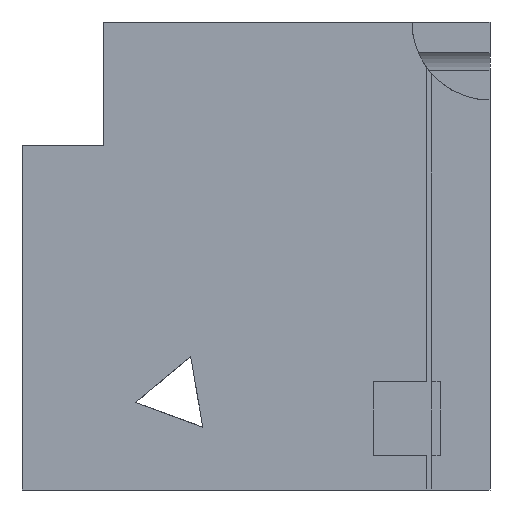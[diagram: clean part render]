
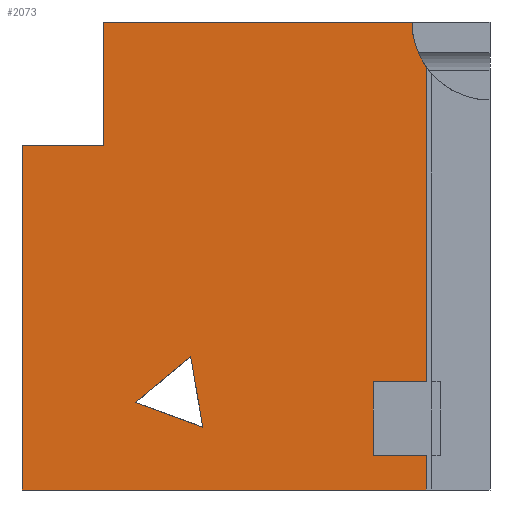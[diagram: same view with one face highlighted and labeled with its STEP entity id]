
A CAD part, left-side view. The second image highlights one B-rep face of the part: STEP entity #2073.
In plain terms, the highlighted planar face has unit normal (-1, 0, 0).
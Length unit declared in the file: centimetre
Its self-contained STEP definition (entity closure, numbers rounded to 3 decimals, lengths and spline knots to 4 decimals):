
#42 = CARTESIAN_POINT ( 'NONE',  ( 0., 825.6216, 736.0903 ) ) ;
#73 = CIRCLE ( 'NONE', #788, 166.8254 ) ;
#82 = CARTESIAN_POINT ( 'NONE',  ( 0., 757.3226, 187.0487 ) ) ;
#92 = FACE_BOUND ( 'NONE', #2176, .T. ) ;
#94 = CARTESIAN_POINT ( 'NONE',  ( 0., 1000., 736.0903 ) ) ;
#115 = DIRECTION ( 'NONE',  ( 0., 0.939, 0.345 ) ) ;
#121 = EDGE_CURVE ( 'NONE', #2398, #1127, #708, .T. ) ;
#143 = VERTEX_POINT ( 'NONE', #94 ) ;
#209 = VERTEX_POINT ( 'NONE', #905 ) ;
#210 = EDGE_CURVE ( 'NONE', #2237, #853, #322, .T. ) ;
#230 = DIRECTION ( 'NONE',  ( -1., 0., 0. ) ) ;
#232 = VECTOR ( 'NONE', #1672, 100. ) ;
#234 = LINE ( 'NONE', #42, #1025 ) ;
#256 = CARTESIAN_POINT ( 'NONE',  ( 0., 639.7029, 285.1336 ) ) ;
#269 = VECTOR ( 'NONE', #1265, 100. ) ;
#281 = ORIENTED_EDGE ( 'NONE', *, *, #1264, .F. ) ;
#322 = LINE ( 'NONE', #482, #664 ) ;
#329 = CARTESIAN_POINT ( 'NONE',  ( 0., 135.9428, 73.6424 ) ) ;
#336 = ORIENTED_EDGE ( 'NONE', *, *, #1992, .T. ) ;
#339 = CARTESIAN_POINT ( 'NONE',  ( 0., 825.6216, 1000. ) ) ;
#344 = VECTOR ( 'NONE', #1210, 100. ) ;
#363 = CARTESIAN_POINT ( 'NONE',  ( 0., 135.9428, 0. ) ) ;
#365 = VECTOR ( 'NONE', #1646, 100. ) ;
#381 = CARTESIAN_POINT ( 'NONE',  ( 0., 613.5688, 134.2296 ) ) ;
#383 = ORIENTED_EDGE ( 'NONE', *, *, #1525, .T. ) ;
#413 = DIRECTION ( 'NONE',  ( 0., -0.768, 0.64 ) ) ;
#418 = CARTESIAN_POINT ( 'NONE',  ( 0., 0., 1000. ) ) ;
#439 = DIRECTION ( 'NONE',  ( 0., -0.171, -0.985 ) ) ;
#446 = CARTESIAN_POINT ( 'NONE',  ( 0., 135.9428, 903.3032 ) ) ;
#470 = EDGE_CURVE ( 'NONE', #209, #714, #1430, .T. ) ;
#481 = PLANE ( 'NONE',  #1027 ) ;
#482 = CARTESIAN_POINT ( 'NONE',  ( 0., 1000., 0. ) ) ;
#506 = CARTESIAN_POINT ( 'NONE',  ( 0., 105.8803, 231.4711 ) ) ;
#509 = VERTEX_POINT ( 'NONE', #796 ) ;
#513 = ORIENTED_EDGE ( 'NONE', *, *, #986, .F. ) ;
#542 = CARTESIAN_POINT ( 'NONE',  ( 0., 1000., 1000. ) ) ;
#550 = ORIENTED_EDGE ( 'NONE', *, *, #1870, .F. ) ;
#558 = LINE ( 'NONE', #1306, #2008 ) ;
#572 = CARTESIAN_POINT ( 'NONE',  ( 0., 105.8803, 73.6424 ) ) ;
#664 = VECTOR ( 'NONE', #1660, 100. ) ;
#696 = ORIENTED_EDGE ( 'NONE', *, *, #2180, .F. ) ;
#706 = LINE ( 'NONE', #1453, #269 ) ;
#708 = LINE ( 'NONE', #2187, #365 ) ;
#714 = VERTEX_POINT ( 'NONE', #339 ) ;
#725 = VERTEX_POINT ( 'NONE', #883 ) ;
#732 = LINE ( 'NONE', #506, #232 ) ;
#788 = AXIS2_PLACEMENT_3D ( 'NONE', #418, #230, #1742 ) ;
#796 = CARTESIAN_POINT ( 'NONE',  ( 0., 135.9428, 231.4711 ) ) ;
#849 = CARTESIAN_POINT ( 'NONE',  ( 0., 1000., 1000. ) ) ;
#853 = VERTEX_POINT ( 'NONE', #363 ) ;
#868 = ORIENTED_EDGE ( 'NONE', *, *, #998, .F. ) ;
#883 = CARTESIAN_POINT ( 'NONE',  ( 0., 639.7029, 285.1336 ) ) ;
#905 = CARTESIAN_POINT ( 'NONE',  ( 0., 825.6216, 736.0903 ) ) ;
#951 = VECTOR ( 'NONE', #1113, 100. ) ;
#968 = LINE ( 'NONE', #256, #1294 ) ;
#986 = EDGE_CURVE ( 'NONE', #1127, #1431, #1349, .T. ) ;
#998 = EDGE_CURVE ( 'NONE', #1431, #853, #2280, .T. ) ;
#1025 = VECTOR ( 'NONE', #1357, 100. ) ;
#1027 = AXIS2_PLACEMENT_3D ( 'NONE', #849, #1605, #2366 ) ;
#1069 = ORIENTED_EDGE ( 'NONE', *, *, #470, .F. ) ;
#1113 = DIRECTION ( 'NONE',  ( 0., 0., -1. ) ) ;
#1127 = VERTEX_POINT ( 'NONE', #1578 ) ;
#1143 = VERTEX_POINT ( 'NONE', #82 ) ;
#1160 = CARTESIAN_POINT ( 'NONE',  ( 0., 166.8254, 1000. ) ) ;
#1167 = DIRECTION ( 'NONE',  ( 0., -1., 0. ) ) ;
#1192 = CARTESIAN_POINT ( 'NONE',  ( 0., 1000., 0. ) ) ;
#1210 = DIRECTION ( 'NONE',  ( 0., 0., 1. ) ) ;
#1238 = EDGE_CURVE ( 'NONE', #509, #2398, #732, .T. ) ;
#1257 = ORIENTED_EDGE ( 'NONE', *, *, #1725, .F. ) ;
#1259 = ORIENTED_EDGE ( 'NONE', *, *, #1797, .T. ) ;
#1264 = EDGE_CURVE ( 'NONE', #2230, #509, #706, .T. ) ;
#1265 = DIRECTION ( 'NONE',  ( 0., 0., -1. ) ) ;
#1291 = ORIENTED_EDGE ( 'NONE', *, *, #1238, .F. ) ;
#1292 = VECTOR ( 'NONE', #1167, 100. ) ;
#1294 = VECTOR ( 'NONE', #413, 100. ) ;
#1306 = CARTESIAN_POINT ( 'NONE',  ( 0., 1000., 1000. ) ) ;
#1317 = DIRECTION ( 'NONE',  ( 0., -1., 0. ) ) ;
#1319 = CARTESIAN_POINT ( 'NONE',  ( 0., 135.9428, 1000. ) ) ;
#1321 = VERTEX_POINT ( 'NONE', #381 ) ;
#1341 = VERTEX_POINT ( 'NONE', #1160 ) ;
#1349 = LINE ( 'NONE', #572, #1292 ) ;
#1357 = DIRECTION ( 'NONE',  ( 0., -1., 0. ) ) ;
#1374 = VECTOR ( 'NONE', #2076, 100. ) ;
#1382 = CARTESIAN_POINT ( 'NONE',  ( 0., 613.5688, 134.2296 ) ) ;
#1392 = EDGE_LOOP ( 'NONE', ( #1895, #868, #513, #2154, #1291, #281, #696, #1257, #1069, #550, #1259 ) ) ;
#1430 = LINE ( 'NONE', #1951, #344 ) ;
#1431 = VERTEX_POINT ( 'NONE', #329 ) ;
#1453 = CARTESIAN_POINT ( 'NONE',  ( 0., 135.9428, 1000. ) ) ;
#1525 = EDGE_CURVE ( 'NONE', #1143, #725, #968, .T. ) ;
#1578 = CARTESIAN_POINT ( 'NONE',  ( 0., 249.8607, 73.6424 ) ) ;
#1592 = EDGE_CURVE ( 'NONE', #725, #1321, #1770, .T. ) ;
#1605 = DIRECTION ( 'NONE',  ( 1., 0., 0. ) ) ;
#1619 = FACE_OUTER_BOUND ( 'NONE', #1392, .T. ) ;
#1646 = DIRECTION ( 'NONE',  ( 0., 0., -1. ) ) ;
#1660 = DIRECTION ( 'NONE',  ( 0., -1., 0. ) ) ;
#1672 = DIRECTION ( 'NONE',  ( 0., 1., 0. ) ) ;
#1701 = ORIENTED_EDGE ( 'NONE', *, *, #1592, .T. ) ;
#1725 = EDGE_CURVE ( 'NONE', #714, #1341, #558, .T. ) ;
#1742 = DIRECTION ( 'NONE',  ( 0., 0., 1. ) ) ;
#1770 = LINE ( 'NONE', #1382, #2296 ) ;
#1797 = EDGE_CURVE ( 'NONE', #143, #2237, #1848, .T. ) ;
#1828 = CARTESIAN_POINT ( 'NONE',  ( 0., 249.8607, 231.4711 ) ) ;
#1848 = LINE ( 'NONE', #542, #951 ) ;
#1870 = EDGE_CURVE ( 'NONE', #143, #209, #234, .T. ) ;
#1895 = ORIENTED_EDGE ( 'NONE', *, *, #210, .T. ) ;
#1951 = CARTESIAN_POINT ( 'NONE',  ( 0., 825.6216, 736.0903 ) ) ;
#1957 = CARTESIAN_POINT ( 'NONE',  ( 0., 757.3226, 187.0487 ) ) ;
#1974 = VECTOR ( 'NONE', #115, 100. ) ;
#1984 = LINE ( 'NONE', #1957, #1974 ) ;
#1992 = EDGE_CURVE ( 'NONE', #1321, #1143, #1984, .T. ) ;
#2008 = VECTOR ( 'NONE', #1317, 100. ) ;
#2073 = ADVANCED_FACE ( 'NONE', ( #92, #1619 ), #481, .F. ) ;
#2076 = DIRECTION ( 'NONE',  ( 0., 0., -1. ) ) ;
#2154 = ORIENTED_EDGE ( 'NONE', *, *, #121, .F. ) ;
#2176 = EDGE_LOOP ( 'NONE', ( #336, #383, #1701 ) ) ;
#2180 = EDGE_CURVE ( 'NONE', #1341, #2230, #73, .T. ) ;
#2187 = CARTESIAN_POINT ( 'NONE',  ( 0., 249.8607, 73.6424 ) ) ;
#2230 = VERTEX_POINT ( 'NONE', #446 ) ;
#2237 = VERTEX_POINT ( 'NONE', #1192 ) ;
#2280 = LINE ( 'NONE', #1319, #1374 ) ;
#2296 = VECTOR ( 'NONE', #439, 100. ) ;
#2366 = DIRECTION ( 'NONE',  ( 0., 0., -1. ) ) ;
#2398 = VERTEX_POINT ( 'NONE', #1828 ) ;
